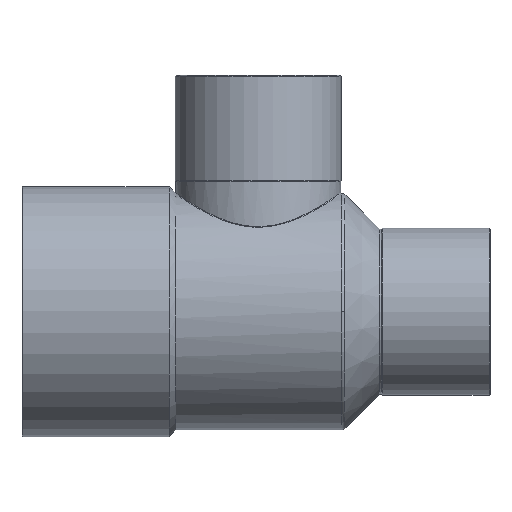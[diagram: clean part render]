
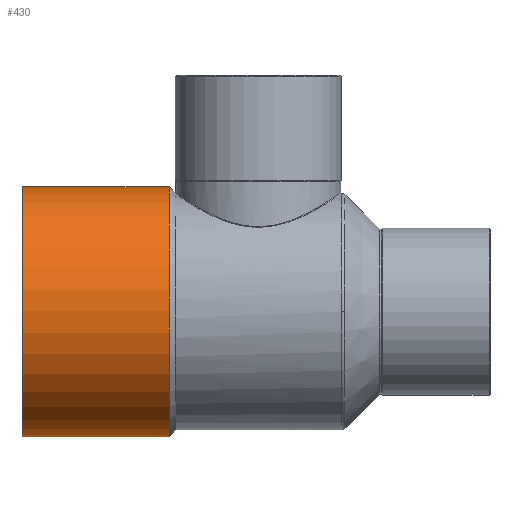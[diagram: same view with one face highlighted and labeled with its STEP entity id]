
A CAD part, top view. The second image highlights one B-rep face of the part: STEP entity #430.
In plain terms, the highlighted cylindrical face has radius 28.575 mm (diameter 57.15 mm), a partial arc.
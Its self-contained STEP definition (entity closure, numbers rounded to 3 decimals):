
#341=CARTESIAN_POINT('',(-20.379,28.575,0.0));
#342=VERTEX_POINT('',#341);
#351=CARTESIAN_POINT('',(-20.379,-28.575,0.));
#352=VERTEX_POINT('',#351);
#353=CARTESIAN_POINT('',(-20.379,0.0,0.0));
#354=DIRECTION('',(1.0,0.0,0.0));
#355=DIRECTION('',(0.0,1.0,0.0));
#356=AXIS2_PLACEMENT_3D('',#353,#354,#355);
#357=CIRCLE('',#356,28.575);
#358=EDGE_CURVE('',#342,#352,#357,.T.);
#399=CARTESIAN_POINT('',(-37.189,0.0,0.0));
#400=DIRECTION('',(1.0,0.0,0.0));
#401=DIRECTION('',(0.0,1.0,0.0));
#402=AXIS2_PLACEMENT_3D('',#399,#400,#401);
#403=CYLINDRICAL_SURFACE('',#402,28.575);
#404=CARTESIAN_POINT('',(-53.8,28.575,0.));
#405=VERTEX_POINT('',#404);
#406=CARTESIAN_POINT('',(-53.8,28.575,0.));
#407=DIRECTION('',(1.0,0.0,0.0));
#408=VECTOR('',#407,33.421);
#409=LINE('',#406,#408);
#410=EDGE_CURVE('',#405,#342,#409,.T.);
#411=ORIENTED_EDGE('',*,*,#410,.F.);
#412=CARTESIAN_POINT('',(-53.8,-28.575,0.));
#413=VERTEX_POINT('',#412);
#414=CARTESIAN_POINT('',(-53.8,0.0,0.0));
#415=DIRECTION('',(-1.0,0.0,0.0));
#416=DIRECTION('',(0.0,-1.0,0.0));
#417=AXIS2_PLACEMENT_3D('',#414,#415,#416);
#418=CIRCLE('',#417,28.575);
#419=EDGE_CURVE('',#413,#405,#418,.T.);
#420=ORIENTED_EDGE('',*,*,#419,.F.);
#421=CARTESIAN_POINT('',(-20.379,-28.575,0.));
#422=DIRECTION('',(-1.0,0.0,0.0));
#423=VECTOR('',#422,33.421);
#424=LINE('',#421,#423);
#425=EDGE_CURVE('',#352,#413,#424,.T.);
#426=ORIENTED_EDGE('',*,*,#425,.F.);
#427=ORIENTED_EDGE('',*,*,#358,.F.);
#428=EDGE_LOOP('',(#411,#420,#426,#427));
#429=FACE_OUTER_BOUND('',#428,.T.);
#430=ADVANCED_FACE('',(#429),#403,.T.);
